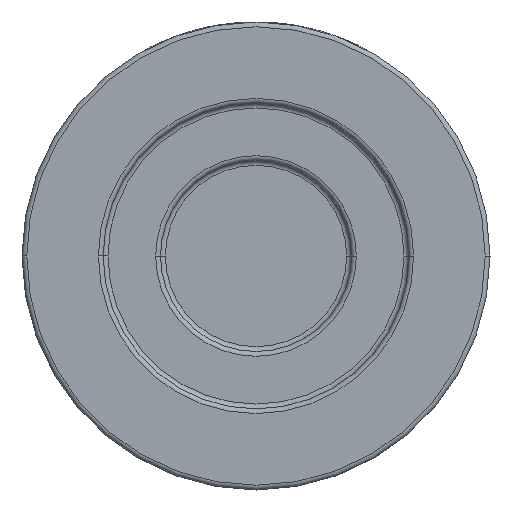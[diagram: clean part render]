
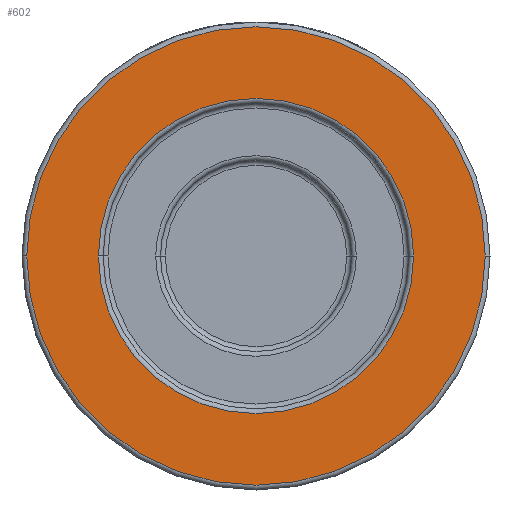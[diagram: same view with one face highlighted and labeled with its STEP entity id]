
A CAD part, front view. The second image highlights one B-rep face of the part: STEP entity #602.
In plain terms, the highlighted planar face has unit normal (0, -1, 0).
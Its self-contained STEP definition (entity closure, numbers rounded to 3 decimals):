
#5 = VERTEX_POINT ( 'NONE', #1214 ) ;
#365 = CIRCLE ( 'NONE', #1752, 33. ) ;
#398 = EDGE_CURVE ( 'NONE', #1683, #2069, #365, .T. ) ;
#536 = DIRECTION ( 'NONE',  ( 0., -1., 0. ) ) ;
#602 = ADVANCED_FACE ( 'NONE', ( #3755, #1257 ), #1280, .T. ) ;
#890 = DIRECTION ( 'NONE',  ( 1., 0., 0. ) ) ;
#943 = CARTESIAN_POINT ( 'NONE',  ( 0., -41., 0. ) ) ;
#991 = DIRECTION ( 'NONE',  ( 1., 0., 0. ) ) ;
#1063 = ORIENTED_EDGE ( 'NONE', *, *, #2017, .T. ) ;
#1214 = CARTESIAN_POINT ( 'NONE',  ( -48., -41., 0. ) ) ;
#1215 = CARTESIAN_POINT ( 'NONE',  ( 0., -41., 0. ) ) ;
#1257 = FACE_OUTER_BOUND ( 'NONE', #4704, .T. ) ;
#1266 = ORIENTED_EDGE ( 'NONE', *, *, #398, .T. ) ;
#1280 = PLANE ( 'NONE',  #4173 ) ;
#1333 = DIRECTION ( 'NONE',  ( 0., 1., 0. ) ) ;
#1664 = CARTESIAN_POINT ( 'NONE',  ( 0., -41., 0. ) ) ;
#1683 = VERTEX_POINT ( 'NONE', #4580 ) ;
#1752 = AXIS2_PLACEMENT_3D ( 'NONE', #2464, #1333, #991 ) ;
#1789 = EDGE_LOOP ( 'NONE', ( #1266, #4233 ) ) ;
#1873 = DIRECTION ( 'NONE',  ( 0., 1., 0. ) ) ;
#2004 = DIRECTION ( 'NONE',  ( 0., -1., 0. ) ) ;
#2017 = EDGE_CURVE ( 'NONE', #3939, #5, #2285, .T. ) ;
#2069 = VERTEX_POINT ( 'NONE', #4289 ) ;
#2285 = CIRCLE ( 'NONE', #2753, 48. ) ;
#2337 = CARTESIAN_POINT ( 'NONE',  ( 48., -41., 0. ) ) ;
#2464 = CARTESIAN_POINT ( 'NONE',  ( 0., -41., 0. ) ) ;
#2753 = AXIS2_PLACEMENT_3D ( 'NONE', #1664, #2004, #3444 ) ;
#2758 = CARTESIAN_POINT ( 'NONE',  ( 49., -41., 0. ) ) ;
#3067 = EDGE_CURVE ( 'NONE', #5, #3939, #4054, .T. ) ;
#3444 = DIRECTION ( 'NONE',  ( 1., 0., 0. ) ) ;
#3462 = AXIS2_PLACEMENT_3D ( 'NONE', #1215, #1873, #4114 ) ;
#3509 = DIRECTION ( 'NONE',  ( 0., -1., 0. ) ) ;
#3755 = FACE_BOUND ( 'NONE', #1789, .T. ) ;
#3874 = ORIENTED_EDGE ( 'NONE', *, *, #3067, .T. ) ;
#3939 = VERTEX_POINT ( 'NONE', #2337 ) ;
#4030 = EDGE_CURVE ( 'NONE', #2069, #1683, #4373, .T. ) ;
#4054 = CIRCLE ( 'NONE', #4748, 48. ) ;
#4114 = DIRECTION ( 'NONE',  ( 1., 0., 0. ) ) ;
#4173 = AXIS2_PLACEMENT_3D ( 'NONE', #2758, #3509, #890 ) ;
#4233 = ORIENTED_EDGE ( 'NONE', *, *, #4030, .T. ) ;
#4289 = CARTESIAN_POINT ( 'NONE',  ( -33., -41., 0. ) ) ;
#4373 = CIRCLE ( 'NONE', #3462, 33. ) ;
#4580 = CARTESIAN_POINT ( 'NONE',  ( 33., -41., 0. ) ) ;
#4670 = DIRECTION ( 'NONE',  ( 1., 0., 0. ) ) ;
#4704 = EDGE_LOOP ( 'NONE', ( #1063, #3874 ) ) ;
#4748 = AXIS2_PLACEMENT_3D ( 'NONE', #943, #536, #4670 ) ;
